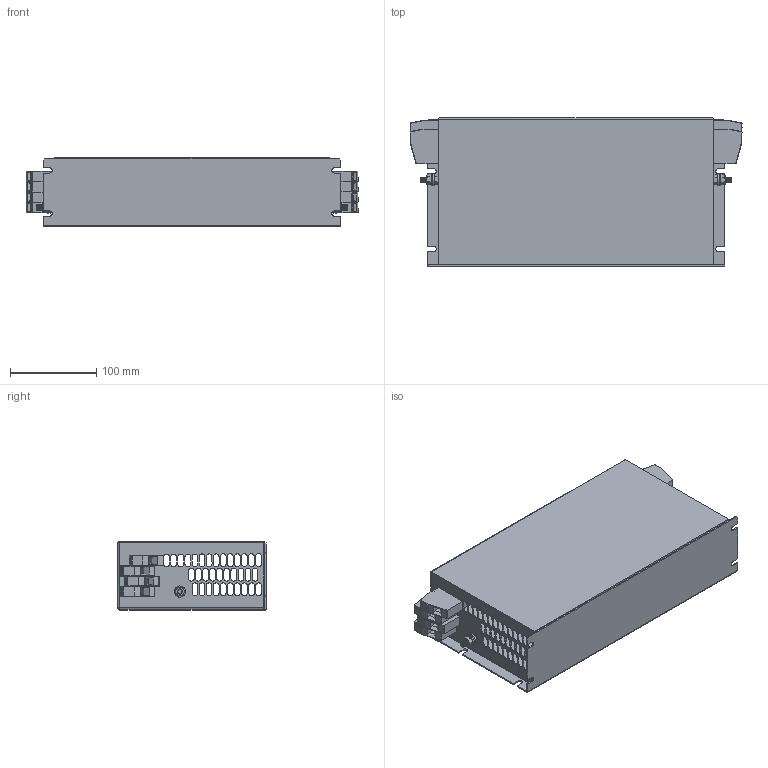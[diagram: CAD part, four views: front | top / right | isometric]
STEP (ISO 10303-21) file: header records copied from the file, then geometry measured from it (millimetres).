
FILE_DESCRIPTION (( 'STEP AP203' ), '1' );
FILE_NAME ('NF-KC-DAR2-36-4.STEP', '2025-09-25T14:29:16', ( '' ), ( '' ), 'SwSTEP 2.0', 'SolidWorks 2017', '' );
FILE_SCHEMA (( 'CONFIG_CONTROL_DESIGN' ));
Length unit declared in the file: millimetre
Products named in the file (7): NF-KC-DAR2-36-4; HDFK-16; M6x16 Earth post; flat washer narrow_am_B18.22M - Plain washer, 6 mm, narrow; hex nut style 1_am_B18.2.4.1M - Hex nut, Style 1,  M6 x 1 --D-N; hex screw_am (dont use)_B18.6.7M - M6 x 1.0 x 16 Indented HHMS --16S
Assembly tree (15 placements, depth 3):
  NF-KC-DAR2-36-4
    NF-KC-DAR2-36-4
    M6x16 Earth post  x2
      flat washer narrow_am_B18.22M - Plain washer, 6 mm, narrow
      hex nut style 1_am_B18.2.4.1M - Hex nut, Style 1,  M6 x 1 --D-N
      hex screw_am (dont use)_B18.6.7M - M6 x 1.0 x 16 Indented HHMS --16S
    HDFK-16  x8
Bounding box: 385.01 x 172 x 80 mm (x, y, z)
Volume: 422940.9 mm3; surface area: 469865.8 mm2
Topology: 18 solids, 18 shells, 1306 faces, 3280 edges, 2060 vertices
Faces by surface type: plane 723, cylinder 381, cone 200, sphere 2
Entity records: 22073 total; most frequent: CARTESIAN_POINT 3773, DIRECTION 3758, ORIENTED_EDGE 3548, EDGE_CURVE 1774, AXIS2_PLACEMENT_3D 1359, VERTEX_POINT 1150, LINE 1040, VECTOR 1040
